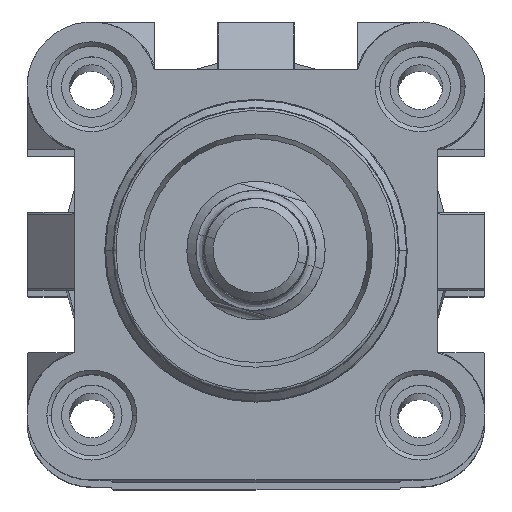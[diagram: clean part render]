
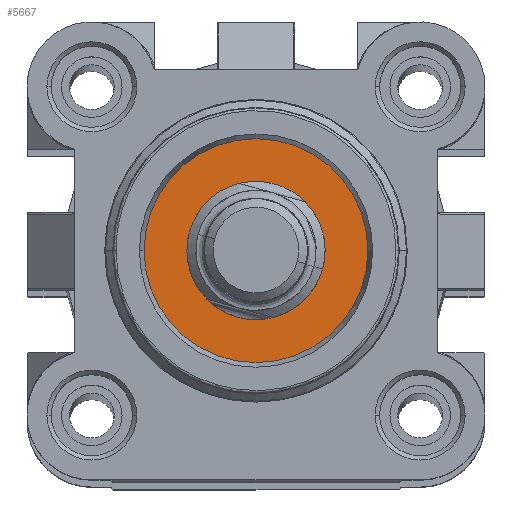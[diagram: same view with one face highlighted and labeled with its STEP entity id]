
A CAD part, top view. The second image highlights one B-rep face of the part: STEP entity #5667.
In plain terms, the highlighted planar face has unit normal (0, 0, 1) as drawn and (0, 0, -1) by its records, which use the part's own axes.
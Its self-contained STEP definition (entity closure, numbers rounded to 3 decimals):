
#1147 = EDGE_LOOP ( 'NONE', ( #15111, #6864 ) ) ;
#1320 = ORIENTED_EDGE ( 'NONE', *, *, #16136, .T. ) ;
#2063 = CARTESIAN_POINT ( 'NONE',  ( 21., 21., -18.6 ) ) ;
#2246 = DIRECTION ( 'NONE',  ( 0., 0., -1. ) ) ;
#2476 = CARTESIAN_POINT ( 'NONE',  ( 8.046, 21., -18.6 ) ) ;
#2969 = DIRECTION ( 'NONE',  ( 0., 0., -1. ) ) ;
#2997 = AXIS2_PLACEMENT_3D ( 'NONE', #10509, #2969, #11797 ) ;
#3351 = DIRECTION ( 'NONE',  ( -1., 0., 0. ) ) ;
#4159 = CARTESIAN_POINT ( 'NONE',  ( 21., 13., -18.6 ) ) ;
#4412 = CIRCLE ( 'NONE', #2997, 8. ) ;
#4799 = FACE_BOUND ( 'NONE', #1147, .T. ) ;
#5169 = VERTEX_POINT ( 'NONE', #5620 ) ;
#5620 = CARTESIAN_POINT ( 'NONE',  ( 33.954, 21., -18.6 ) ) ;
#5667 = ADVANCED_FACE ( 'NONE', ( #4799, #11561 ), #9031, .T. ) ;
#5713 = EDGE_CURVE ( 'NONE', #6154, #15905, #4412, .T. ) ;
#6154 = VERTEX_POINT ( 'NONE', #8107 ) ;
#6422 = EDGE_CURVE ( 'NONE', #15905, #6154, #14137, .T. ) ;
#6579 = DIRECTION ( 'NONE',  ( 0., 0., -1. ) ) ;
#6716 = EDGE_CURVE ( 'NONE', #5169, #10442, #10932, .T. ) ;
#6864 = ORIENTED_EDGE ( 'NONE', *, *, #6422, .F. ) ;
#6988 = CARTESIAN_POINT ( 'NONE',  ( 21., 21., -18.6 ) ) ;
#7777 = EDGE_LOOP ( 'NONE', ( #1320, #8415 ) ) ;
#8107 = CARTESIAN_POINT ( 'NONE',  ( 21., 29., -18.6 ) ) ;
#8265 = DIRECTION ( 'NONE',  ( -1., 0., 0. ) ) ;
#8415 = ORIENTED_EDGE ( 'NONE', *, *, #6716, .T. ) ;
#9031 = PLANE ( 'NONE',  #16043 ) ;
#9833 = CARTESIAN_POINT ( 'NONE',  ( 21., 21., -18.6 ) ) ;
#10354 = AXIS2_PLACEMENT_3D ( 'NONE', #2063, #10894, #3351 ) ;
#10442 = VERTEX_POINT ( 'NONE', #2476 ) ;
#10509 = CARTESIAN_POINT ( 'NONE',  ( 21., 21., -18.6 ) ) ;
#10894 = DIRECTION ( 'NONE',  ( 0., 0., -1. ) ) ;
#10932 = CIRCLE ( 'NONE', #13055, 12.954 ) ;
#11084 = DIRECTION ( 'NONE',  ( 0., 1., 0. ) ) ;
#11561 = FACE_OUTER_BOUND ( 'NONE', #7777, .T. ) ;
#11681 = AXIS2_PLACEMENT_3D ( 'NONE', #9833, #2246, #11084 ) ;
#11797 = DIRECTION ( 'NONE',  ( 0., 1., 0. ) ) ;
#13055 = AXIS2_PLACEMENT_3D ( 'NONE', #6988, #15876, #8265 ) ;
#14137 = CIRCLE ( 'NONE', #11681, 8. ) ;
#14199 = CARTESIAN_POINT ( 'NONE',  ( 34.109, 7.891, -18.6 ) ) ;
#15111 = ORIENTED_EDGE ( 'NONE', *, *, #5713, .F. ) ;
#15476 = DIRECTION ( 'NONE',  ( -1., 0., 0. ) ) ;
#15876 = DIRECTION ( 'NONE',  ( 0., 0., -1. ) ) ;
#15905 = VERTEX_POINT ( 'NONE', #4159 ) ;
#16008 = CIRCLE ( 'NONE', #10354, 12.954 ) ;
#16043 = AXIS2_PLACEMENT_3D ( 'NONE', #14199, #6579, #15476 ) ;
#16136 = EDGE_CURVE ( 'NONE', #10442, #5169, #16008, .T. ) ;
